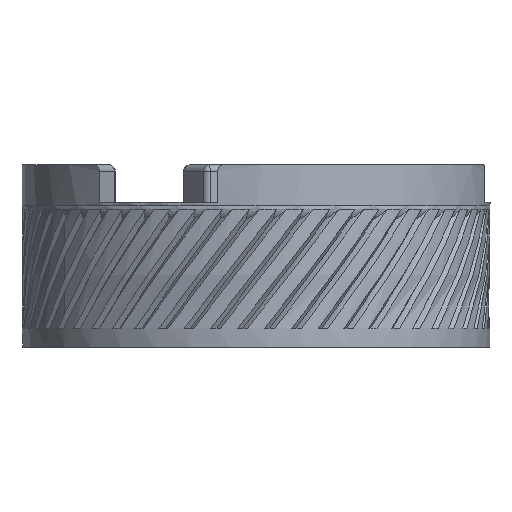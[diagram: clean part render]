
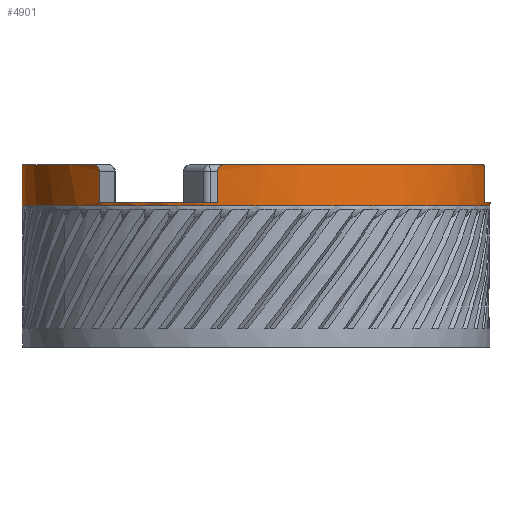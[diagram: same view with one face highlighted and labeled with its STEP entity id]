
A CAD part, front view. The second image highlights one B-rep face of the part: STEP entity #4901.
In plain terms, the highlighted cylindrical face has radius 37.5 mm (diameter 75 mm), a full revolution.
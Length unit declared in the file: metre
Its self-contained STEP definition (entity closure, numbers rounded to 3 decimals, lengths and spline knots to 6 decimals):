
#105=LINE('',#15894,#183);
#108=LINE('',#15911,#186);
#109=LINE('',#15912,#187);
#110=LINE('',#15927,#188);
#111=LINE('',#15943,#189);
#112=LINE('',#15944,#190);
#183=VECTOR('',#5963,1.);
#186=VECTOR('',#5972,1.);
#187=VECTOR('',#5973,1.);
#188=VECTOR('',#5976,1.);
#189=VECTOR('',#5979,1.);
#190=VECTOR('',#5980,1.);
#643=B_SPLINE_CURVE_WITH_KNOTS('',3,(#15905,#15906,#15907,#15908,#15909),
 .UNSPECIFIED.,.F.,.F.,(4,1,4),(0.,0.000799,0.001599),
 .UNSPECIFIED.);
#644=B_SPLINE_CURVE_WITH_KNOTS('',3,(#15914,#15915,#15916,#15917,#15918),
 .UNSPECIFIED.,.F.,.F.,(4,1,4),(0.,0.000799,0.001599),
 .UNSPECIFIED.);
#645=B_SPLINE_CURVE_WITH_KNOTS('',3,(#15922,#15923,#15924,#15925,#15926),
 .UNSPECIFIED.,.F.,.F.,(4,1,4),(0.,0.000799,0.001599),
 .UNSPECIFIED.);
#646=B_SPLINE_CURVE_WITH_KNOTS('',3,(#15929,#15930,#15931,#15932,#15933),
 .UNSPECIFIED.,.F.,.F.,(4,1,4),(0.,0.000799,0.001599),
 .UNSPECIFIED.);
#647=B_SPLINE_CURVE_WITH_KNOTS('',3,(#15937,#15938,#15939,#15940,#15941),
 .UNSPECIFIED.,.F.,.F.,(4,1,4),(0.,0.000799,0.001599),
 .UNSPECIFIED.);
#648=B_SPLINE_CURVE_WITH_KNOTS('',3,(#15946,#15947,#15948,#15949,#15950),
 .UNSPECIFIED.,.F.,.F.,(4,1,4),(0.,0.000799,0.001599),
 .UNSPECIFIED.);
#2186=ORIENTED_EDGE('',*,*,#3207,.T.);
#2187=ORIENTED_EDGE('',*,*,#3208,.F.);
#2188=ORIENTED_EDGE('',*,*,#3209,.T.);
#2189=ORIENTED_EDGE('',*,*,#3210,.T.);
#2190=ORIENTED_EDGE('',*,*,#2975,.F.);
#2191=ORIENTED_EDGE('',*,*,#3211,.F.);
#2192=ORIENTED_EDGE('',*,*,#3212,.T.);
#2193=ORIENTED_EDGE('',*,*,#3213,.F.);
#2194=ORIENTED_EDGE('',*,*,#3214,.T.);
#2195=ORIENTED_EDGE('',*,*,#3204,.T.);
#2196=ORIENTED_EDGE('',*,*,#2969,.F.);
#2197=ORIENTED_EDGE('',*,*,#3215,.F.);
#2198=ORIENTED_EDGE('',*,*,#3216,.T.);
#2199=ORIENTED_EDGE('',*,*,#3217,.F.);
#2200=ORIENTED_EDGE('',*,*,#3218,.T.);
#2201=ORIENTED_EDGE('',*,*,#3219,.T.);
#2202=ORIENTED_EDGE('',*,*,#2981,.F.);
#2203=ORIENTED_EDGE('',*,*,#3220,.F.);
#2204=ORIENTED_EDGE('',*,*,#3221,.T.);
#2969=EDGE_CURVE('',#3587,#3588,#3891,.T.);
#2975=EDGE_CURVE('',#3593,#3594,#3895,.T.);
#2981=EDGE_CURVE('',#3599,#3600,#3899,.T.);
#3204=EDGE_CURVE('',#3756,#3588,#105,.T.);
#3207=EDGE_CURVE('',#3758,#3758,#3960,.F.);
#3208=EDGE_CURVE('',#3759,#3760,#3961,.T.);
#3209=EDGE_CURVE('',#3759,#3761,#643,.T.);
#3210=EDGE_CURVE('',#3761,#3594,#108,.T.);
#3211=EDGE_CURVE('',#3762,#3593,#109,.T.);
#3212=EDGE_CURVE('',#3762,#3763,#644,.T.);
#3213=EDGE_CURVE('',#3764,#3763,#3962,.T.);
#3214=EDGE_CURVE('',#3764,#3756,#645,.T.);
#3215=EDGE_CURVE('',#3765,#3587,#110,.T.);
#3216=EDGE_CURVE('',#3765,#3766,#646,.T.);
#3217=EDGE_CURVE('',#3767,#3766,#3963,.T.);
#3218=EDGE_CURVE('',#3767,#3768,#647,.T.);
#3219=EDGE_CURVE('',#3768,#3600,#111,.T.);
#3220=EDGE_CURVE('',#3769,#3599,#112,.T.);
#3221=EDGE_CURVE('',#3769,#3760,#648,.T.);
#3587=VERTEX_POINT('',#11675);
#3588=VERTEX_POINT('',#11677);
#3593=VERTEX_POINT('',#11688);
#3594=VERTEX_POINT('',#11690);
#3599=VERTEX_POINT('',#11701);
#3600=VERTEX_POINT('',#11703);
#3756=VERTEX_POINT('',#15895);
#3758=VERTEX_POINT('',#15901);
#3759=VERTEX_POINT('',#15903);
#3760=VERTEX_POINT('',#15904);
#3761=VERTEX_POINT('',#15910);
#3762=VERTEX_POINT('',#15913);
#3763=VERTEX_POINT('',#15919);
#3764=VERTEX_POINT('',#15921);
#3765=VERTEX_POINT('',#15928);
#3766=VERTEX_POINT('',#15934);
#3767=VERTEX_POINT('',#15936);
#3768=VERTEX_POINT('',#15942);
#3769=VERTEX_POINT('',#15945);
#3891=CIRCLE('',#5057,0.0375);
#3895=CIRCLE('',#5062,0.0375);
#3899=CIRCLE('',#5067,0.0375);
#3960=CIRCLE('',#5248,0.0375);
#3961=CIRCLE('',#5249,0.0375);
#3962=CIRCLE('',#5250,0.0375);
#3963=CIRCLE('',#5251,0.0375);
#4266=EDGE_LOOP('',(#2186));
#4267=EDGE_LOOP('',(#2187,#2188,#2189,#2190,#2191,#2192,#2193,#2194,#2195,
#2196,#2197,#2198,#2199,#2200,#2201,#2202,#2203,#2204));
#4580=FACE_BOUND('',#4266,.T.);
#4581=FACE_BOUND('',#4267,.T.);
#4633=CYLINDRICAL_SURFACE('',#5247,0.0375);
#4901=ADVANCED_FACE('',(#4580,#4581),#4633,.T.);
#5057=AXIS2_PLACEMENT_3D('',#11676,#5530,#5531);
#5062=AXIS2_PLACEMENT_3D('',#11689,#5542,#5543);
#5067=AXIS2_PLACEMENT_3D('',#11702,#5554,#5555);
#5247=AXIS2_PLACEMENT_3D('',#15899,#5966,#5967);
#5248=AXIS2_PLACEMENT_3D('',#15900,#5968,#5969);
#5249=AXIS2_PLACEMENT_3D('',#15902,#5970,#5971);
#5250=AXIS2_PLACEMENT_3D('',#15920,#5974,#5975);
#5251=AXIS2_PLACEMENT_3D('',#15935,#5977,#5978);
#5530=DIRECTION('',(0.,0.,1.));
#5531=DIRECTION('',(-1.,0.,0.));
#5542=DIRECTION('',(0.,0.,1.));
#5543=DIRECTION('',(-1.,0.,0.));
#5554=DIRECTION('',(0.,0.,1.));
#5555=DIRECTION('',(-1.,0.,0.));
#5963=DIRECTION('',(0.,0.,-1.));
#5966=DIRECTION('',(0.,0.,-1.));
#5967=DIRECTION('',(1.,0.,0.));
#5968=DIRECTION('',(0.,0.,-1.));
#5969=DIRECTION('',(1.,0.,0.));
#5970=DIRECTION('',(0.,0.,1.));
#5971=DIRECTION('',(-1.,0.,0.));
#5972=DIRECTION('',(0.,0.,-1.));
#5973=DIRECTION('',(0.,0.,-1.));
#5974=DIRECTION('',(0.,0.,1.));
#5975=DIRECTION('',(-1.,0.,0.));
#5976=DIRECTION('',(0.,0.,-1.));
#5977=DIRECTION('',(0.,0.,1.));
#5978=DIRECTION('',(-1.,0.,0.));
#5979=DIRECTION('',(0.,0.,-1.));
#5980=DIRECTION('',(0.,0.,-1.));
#11675=CARTESIAN_POINT('',(0.036679,-0.007804,0.0766));
#11676=CARTESIAN_POINT('',(0.,0.,0.0766));
#11677=CARTESIAN_POINT('',(0.035123,0.013138,0.0766));
#11688=CARTESIAN_POINT('',(-0.011581,0.035667,0.0766));
#11689=CARTESIAN_POINT('',(0.,0.,0.0766));
#11690=CARTESIAN_POINT('',(-0.02894,0.023848,0.0766));
#11701=CARTESIAN_POINT('',(-0.025098,-0.027863,0.0766));
#11702=CARTESIAN_POINT('',(0.,0.,0.0766));
#11703=CARTESIAN_POINT('',(-0.006183,-0.036987,0.0766));
#15894=CARTESIAN_POINT('',(0.035123,0.013138,0.0826));
#15895=CARTESIAN_POINT('',(0.035123,0.013138,0.0816));
#15899=CARTESIAN_POINT('',(0.,0.,0.0826));
#15900=CARTESIAN_POINT('',(0.,0.,0.076043));
#15901=CARTESIAN_POINT('',(0.0375,0.,0.076043));
#15902=CARTESIAN_POINT('',(0.,0.,
0.0826));
#15903=CARTESIAN_POINT('',(-0.029594,0.023032,0.0826));
#15904=CARTESIAN_POINT('',(-0.025865,-0.027152,0.0826));
#15905=CARTESIAN_POINT('',(-0.029594,0.023032,0.0826));
#15906=CARTESIAN_POINT('',(-0.029428,0.023245,0.0826));
#15907=CARTESIAN_POINT('',(-0.029094,0.023663,0.082396));
#15908=CARTESIAN_POINT('',(-0.02894,0.023848,0.081871));
#15909=CARTESIAN_POINT('',(-0.02894,0.023848,0.0816));
#15910=CARTESIAN_POINT('',(-0.02894,0.023848,0.0816));
#15911=CARTESIAN_POINT('',(-0.02894,0.023848,0.0826));
#15912=CARTESIAN_POINT('',(-0.011581,0.035667,0.0826));
#15913=CARTESIAN_POINT('',(-0.011581,0.035667,0.0816));
#15914=CARTESIAN_POINT('',(-0.011581,0.035667,0.0816));
#15915=CARTESIAN_POINT('',(-0.011581,0.035667,0.08187));
#15916=CARTESIAN_POINT('',(-0.011353,0.035742,0.082395));
#15917=CARTESIAN_POINT('',(-0.010841,0.0359,0.0826));
#15918=CARTESIAN_POINT('',(-0.010582,0.035976,0.0826));
#15919=CARTESIAN_POINT('',(-0.010582,0.035976,0.0826));
#15920=CARTESIAN_POINT('',(0.,0.,0.0826));
#15921=CARTESIAN_POINT('',(0.034743,0.014113,0.0826));
#15922=CARTESIAN_POINT('',(0.034743,0.014113,0.0826));
#15923=CARTESIAN_POINT('',(0.034845,0.013862,0.0826));
#15924=CARTESIAN_POINT('',(0.035039,0.013365,0.082396));
#15925=CARTESIAN_POINT('',(0.035123,0.013138,0.081871));
#15926=CARTESIAN_POINT('',(0.035123,0.013138,0.0816));
#15927=CARTESIAN_POINT('',(0.036679,-0.007804,0.0826));
#15928=CARTESIAN_POINT('',(0.036679,-0.007804,0.0816));
#15929=CARTESIAN_POINT('',(0.036679,-0.007804,0.0816));
#15930=CARTESIAN_POINT('',(0.036679,-0.007804,0.08187));
#15931=CARTESIAN_POINT('',(0.03663,-0.008039,0.082395));
#15932=CARTESIAN_POINT('',(0.036511,-0.008561,0.0826));
#15933=CARTESIAN_POINT('',(0.036447,-0.008824,0.0826));
#15934=CARTESIAN_POINT('',(0.036447,-0.008824,0.0826));
#15935=CARTESIAN_POINT('',(0.,0.,0.0826));
#15936=CARTESIAN_POINT('',(-0.005149,-0.037145,0.0826));
#15937=CARTESIAN_POINT('',(-0.005149,-0.037145,0.0826));
#15938=CARTESIAN_POINT('',(-0.005417,-0.037108,0.0826));
#15939=CARTESIAN_POINT('',(-0.005945,-0.037027,0.082396));
#15940=CARTESIAN_POINT('',(-0.006183,-0.036987,0.081871));
#15941=CARTESIAN_POINT('',(-0.006183,-0.036987,0.0816));
#15942=CARTESIAN_POINT('',(-0.006183,-0.036987,0.0816));
#15943=CARTESIAN_POINT('',(-0.006183,-0.036987,0.0826));
#15944=CARTESIAN_POINT('',(-0.025098,-0.027863,0.0826));
#15945=CARTESIAN_POINT('',(-0.025098,-0.027863,0.0816));
#15946=CARTESIAN_POINT('',(-0.025098,-0.027863,0.0816));
#15947=CARTESIAN_POINT('',(-0.025098,-0.027863,0.08187));
#15948=CARTESIAN_POINT('',(-0.025277,-0.027703,0.082395));
#15949=CARTESIAN_POINT('',(-0.02567,-0.027338,0.0826));
#15950=CARTESIAN_POINT('',(-0.025865,-0.027152,0.0826));
